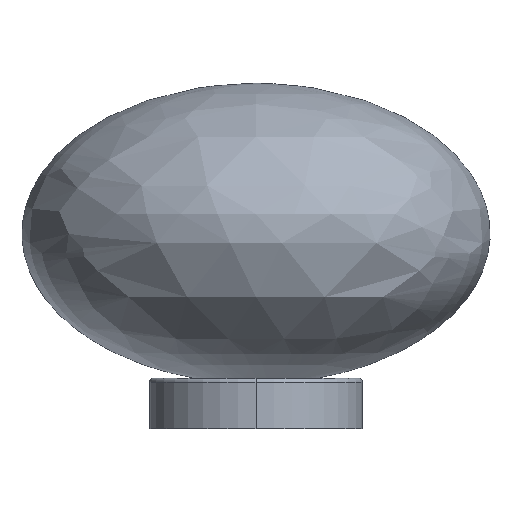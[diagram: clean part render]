
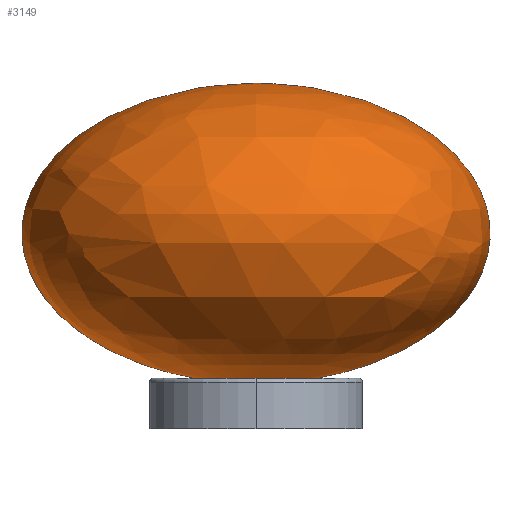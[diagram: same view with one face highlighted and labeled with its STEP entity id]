
A CAD part, left-side view. The second image highlights one B-rep face of the part: STEP entity #3149.
In plain terms, the highlighted free-form (B-spline) face has degree [3, 3] with [4, 4] control points.
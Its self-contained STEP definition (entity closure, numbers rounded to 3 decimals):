
#31 = EDGE_CURVE ( 'NONE', #811, #961, #4344, .T. ) ;
#65 = ORIENTED_EDGE ( 'NONE', *, *, #31, .F. ) ;
#147 = CARTESIAN_POINT ( 'NONE',  ( 0., 31., 25. ) ) ;
#194 = CARTESIAN_POINT ( 'NONE',  ( -381.404, 190.702, 177.413 ) ) ;
#259 = DIRECTION ( 'NONE',  ( 0., 0., 1. ) ) ;
#297 =( BOUNDED_CURVE ( )  B_SPLINE_CURVE ( 3, ( #3848, #1152, #2490, #147 ),
 .UNSPECIFIED., .F., .T. ) 
 B_SPLINE_CURVE_WITH_KNOTS ( ( 4, 4 ),
 ( 4.712, 7.595 ),
 .UNSPECIFIED. ) 
 CURVE ( )  GEOMETRIC_REPRESENTATION_ITEM ( )  RATIONAL_B_SPLINE_CURVE ( ( 1., 0.419, 0.419, 1. ) ) 
 REPRESENTATION_ITEM ( '' )  );
#389 = CARTESIAN_POINT ( 'NONE',  ( 0., -215.337, 56.293 ) ) ;
#460 = EDGE_CURVE ( 'NONE', #811, #1958, #297, .T. ) ;
#528 = CARTESIAN_POINT ( 'NONE',  ( 0., -215.337, 56.293 ) ) ;
#594 = CARTESIAN_POINT ( 'NONE',  ( 0., 0., 25. ) ) ;
#606 = CARTESIAN_POINT ( 'NONE',  ( 0., 31., 25. ) ) ;
#811 = VERTEX_POINT ( 'NONE', #3709 ) ;
#864 = CARTESIAN_POINT ( 'NONE',  ( -430.674, 215.337, 56.293 ) ) ;
#961 = VERTEX_POINT ( 'NONE', #4149 ) ;
#1045 = CARTESIAN_POINT ( 'NONE',  ( 0., 0., 177.413 ) ) ;
#1063 = EDGE_LOOP ( 'NONE', ( #65, #1977, #3994, #1376 ) ) ;
#1152 = CARTESIAN_POINT ( 'NONE',  ( 0., 190.702, 177.413 ) ) ;
#1201 = CARTESIAN_POINT ( 'NONE',  ( 0., -31., 25. ) ) ;
#1252 = DIRECTION ( 'NONE',  ( -1., 0., 0. ) ) ;
#1314 = EDGE_CURVE ( 'NONE', #1958, #1945, #1471, .T. ) ;
#1323 = AXIS2_PLACEMENT_3D ( 'NONE', #1970, #4331, #2315 ) ;
#1376 = ORIENTED_EDGE ( 'NONE', *, *, #4189, .T. ) ;
#1426 = AXIS2_PLACEMENT_3D ( 'NONE', #594, #259, #1252 ) ;
#1471 = CIRCLE ( 'NONE', #1426, 31. ) ;
#1539 = CARTESIAN_POINT ( 'NONE',  ( -62., 31., 25. ) ) ;
#1649 = CARTESIAN_POINT ( 'NONE',  ( 0., 0., 177.413 ) ) ;
#1888 = CARTESIAN_POINT ( 'NONE',  ( 0., 0., 177.413 ) ) ;
#1940 = CARTESIAN_POINT ( 'NONE',  ( -31., 0., 25. ) ) ;
#1945 = VERTEX_POINT ( 'NONE', #1940 ) ;
#1958 = VERTEX_POINT ( 'NONE', #606 ) ;
#1970 = CARTESIAN_POINT ( 'NONE',  ( 0., 0., 25. ) ) ;
#1977 = ORIENTED_EDGE ( 'NONE', *, *, #460, .T. ) ;
#2205 = CARTESIAN_POINT ( 'NONE',  ( -381.404, -190.702, 177.413 ) ) ;
#2315 = DIRECTION ( 'NONE',  ( -1., 0., 0. ) ) ;
#2490 = CARTESIAN_POINT ( 'NONE',  ( 0., 215.337, 56.293 ) ) ;
#2493 =( BOUNDED_SURFACE ( )  B_SPLINE_SURFACE ( 3, 3, ( 
 ( #1888, #3326, #3664, #1649 ),
 ( #4233, #2205, #194, #2539 ),
 ( #528, #2865, #864, #3217 ),
 ( #1201, #3549, #1539, #3902 ) ),
 .UNSPECIFIED., .F., .F., .F. ) 
 B_SPLINE_SURFACE_WITH_KNOTS ( ( 4, 4 ),
 ( 4, 4 ),
 ( 0., 1. ),
 ( 0., 1. ),
 .UNSPECIFIED. ) 
 GEOMETRIC_REPRESENTATION_ITEM ( )  RATIONAL_B_SPLINE_SURFACE ( (
 ( 1., 0.333, 0.333, 1.),
 ( 0.419, 0.14, 0.14, 0.419),
 ( 0.419, 0.14, 0.14, 0.419),
 ( 1., 0.333, 0.333, 1.) ) ) 
 REPRESENTATION_ITEM ( '' )  SURFACE ( )  );
#2539 = CARTESIAN_POINT ( 'NONE',  ( 0., 190.702, 177.413 ) ) ;
#2865 = CARTESIAN_POINT ( 'NONE',  ( -430.674, -215.337, 56.293 ) ) ;
#2994 = FACE_OUTER_BOUND ( 'NONE', #1063, .T. ) ;
#3052 = CARTESIAN_POINT ( 'NONE',  ( 0., -31., 25. ) ) ;
#3149 = ADVANCED_FACE ( 'NONE', ( #2994 ), #2493, .F. ) ;
#3217 = CARTESIAN_POINT ( 'NONE',  ( 0., 215.337, 56.293 ) ) ;
#3326 = CARTESIAN_POINT ( 'NONE',  ( 0., 0., 177.413 ) ) ;
#3396 = CARTESIAN_POINT ( 'NONE',  ( 0., -190.702, 177.413 ) ) ;
#3549 = CARTESIAN_POINT ( 'NONE',  ( -62., -31., 25. ) ) ;
#3664 = CARTESIAN_POINT ( 'NONE',  ( 0., 0., 177.413 ) ) ;
#3709 = CARTESIAN_POINT ( 'NONE',  ( 0., 0., 177.413 ) ) ;
#3848 = CARTESIAN_POINT ( 'NONE',  ( 0., 0., 177.413 ) ) ;
#3902 = CARTESIAN_POINT ( 'NONE',  ( 0., 31., 25. ) ) ;
#3994 = ORIENTED_EDGE ( 'NONE', *, *, #1314, .T. ) ;
#4013 = CIRCLE ( 'NONE', #1323, 31. ) ;
#4149 = CARTESIAN_POINT ( 'NONE',  ( 0., -31., 25. ) ) ;
#4189 = EDGE_CURVE ( 'NONE', #1945, #961, #4013, .T. ) ;
#4233 = CARTESIAN_POINT ( 'NONE',  ( 0., -190.702, 177.413 ) ) ;
#4331 = DIRECTION ( 'NONE',  ( 0., 0., 1. ) ) ;
#4344 =( BOUNDED_CURVE ( )  B_SPLINE_CURVE ( 3, ( #1045, #3396, #389, #3052 ),
 .UNSPECIFIED., .F., .T. ) 
 B_SPLINE_CURVE_WITH_KNOTS ( ( 4, 4 ),
 ( 4.712, 7.595 ),
 .UNSPECIFIED. ) 
 CURVE ( )  GEOMETRIC_REPRESENTATION_ITEM ( )  RATIONAL_B_SPLINE_CURVE ( ( 1., 0.419, 0.419, 1. ) ) 
 REPRESENTATION_ITEM ( '' )  );
